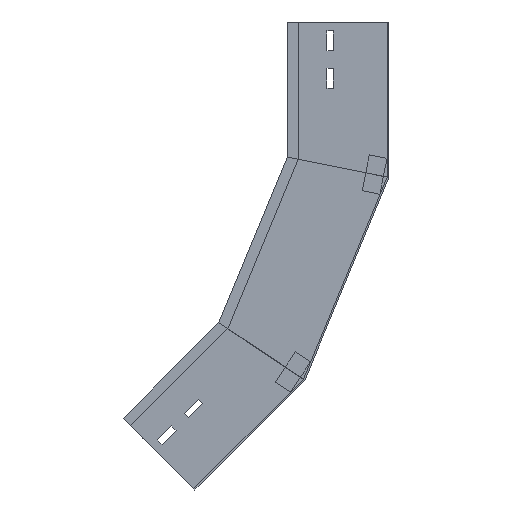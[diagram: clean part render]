
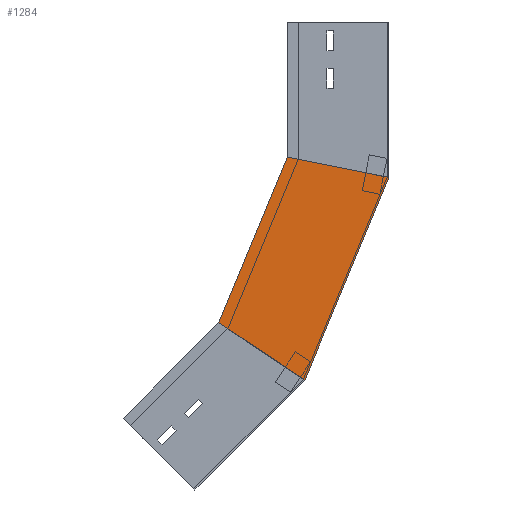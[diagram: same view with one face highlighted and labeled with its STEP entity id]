
A CAD part, left-side view. The second image highlights one B-rep face of the part: STEP entity #1284.
In plain terms, the highlighted planar face has unit normal (-1, 0, 0) as drawn and (1, 0, 0) by its records, which use the part's own axes.
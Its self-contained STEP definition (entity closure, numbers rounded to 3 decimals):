
#45 = CARTESIAN_POINT ( 'NONE',  ( 0., 188.403, -332.969 ) ) ;
#58 = CARTESIAN_POINT ( 'NONE',  ( 0., 0., -172.1 ) ) ;
#104 = LINE ( 'NONE', #323, #878 ) ;
#158 = CARTESIAN_POINT ( 'NONE',  ( 0., 0., -172.1 ) ) ;
#208 = PLANE ( 'NONE',  #430 ) ;
#240 = EDGE_CURVE ( 'NONE', #1071, #717, #1421, .T. ) ;
#244 = CARTESIAN_POINT ( 'NONE',  ( 0., 93.03, -396.695 ) ) ;
#318 = CARTESIAN_POINT ( 'NONE',  ( 0., 0., -172.1 ) ) ;
#323 = CARTESIAN_POINT ( 'NONE',  ( 0., 32.93, -165.55 ) ) ;
#368 = ORIENTED_EDGE ( 'NONE', *, *, #240, .F. ) ;
#389 = DIRECTION ( 'NONE',  ( 0., 0.383, -0.924 ) ) ;
#420 = VERTEX_POINT ( 'NONE', #58 ) ;
#430 = AXIS2_PLACEMENT_3D ( 'NONE', #318, #556, #694 ) ;
#434 = EDGE_CURVE ( 'NONE', #717, #526, #438, .T. ) ;
#438 = LINE ( 'NONE', #993, #973 ) ;
#526 = VERTEX_POINT ( 'NONE', #244 ) ;
#546 = VECTOR ( 'NONE', #1420, 1000. ) ;
#556 = DIRECTION ( 'NONE',  ( -1., 0., 0. ) ) ;
#694 = DIRECTION ( 'NONE',  ( 0., 0., 1. ) ) ;
#717 = VERTEX_POINT ( 'NONE', #45 ) ;
#878 = VECTOR ( 'NONE', #1010, 1000. ) ;
#922 = VECTOR ( 'NONE', #389, 1000. ) ;
#924 = CARTESIAN_POINT ( 'NONE',  ( 0., 112.5, -149.722 ) ) ;
#973 = VECTOR ( 'NONE', #1076, 1000. ) ;
#988 = LINE ( 'NONE', #158, #546 ) ;
#993 = CARTESIAN_POINT ( 'NONE',  ( 0., 132.464, -370.346 ) ) ;
#1010 = DIRECTION ( 'NONE',  ( 0., -0.981, -0.195 ) ) ;
#1071 = VERTEX_POINT ( 'NONE', #924 ) ;
#1073 = CARTESIAN_POINT ( 'NONE',  ( 0., 103.936, -129.048 ) ) ;
#1076 = DIRECTION ( 'NONE',  ( 0., -0.831, -0.556 ) ) ;
#1130 = EDGE_CURVE ( 'NONE', #420, #526, #988, .T. ) ;
#1176 = ORIENTED_EDGE ( 'NONE', *, *, #1130, .T. ) ;
#1256 = EDGE_CURVE ( 'NONE', #1071, #420, #104, .T. ) ;
#1284 = ADVANCED_FACE ( 'NONE', ( #1473 ), #208, .F. ) ;
#1367 = EDGE_LOOP ( 'NONE', ( #368, #1489, #1176, #1443 ) ) ;
#1420 = DIRECTION ( 'NONE',  ( 0., 0.383, -0.924 ) ) ;
#1421 = LINE ( 'NONE', #1073, #922 ) ;
#1443 = ORIENTED_EDGE ( 'NONE', *, *, #434, .F. ) ;
#1473 = FACE_OUTER_BOUND ( 'NONE', #1367, .T. ) ;
#1489 = ORIENTED_EDGE ( 'NONE', *, *, #1256, .T. ) ;
